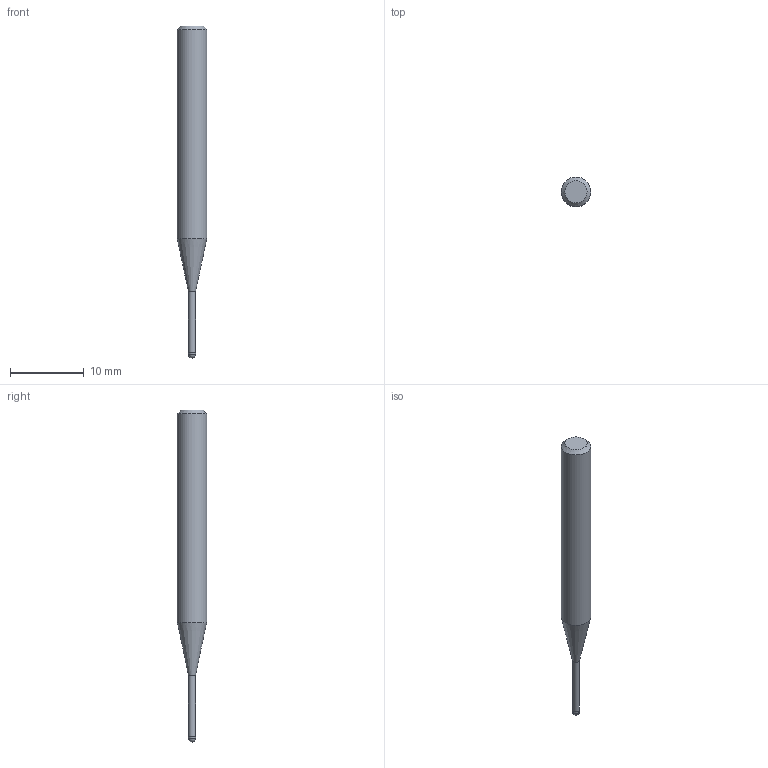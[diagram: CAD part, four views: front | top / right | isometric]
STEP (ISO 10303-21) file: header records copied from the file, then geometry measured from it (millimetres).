
FILE_DESCRIPTION((''),'2;1');
FILE_NAME('C:\Users\nsx150\AppData\Local\Temp\Mastercam 2021\ARV7HD45SN\TEMP.step','2023-06-13T16:35:40',(''),(''),'STEP Write','Mastercam 2021 ... CNC Software, Inc.','');
FILE_SCHEMA(('AUTOMOTIVE_DESIGN'));
Length unit declared in the file: millimetre
Products named in the file (1): None
Bounding box: 4 x 4 x 45 mm (x, y, z)
Volume: 406 mm3; surface area: 456.3 mm2
Topology: 2 solids, 2 shells, 9 faces, 14 edges, 8 vertices
Faces by surface type: plane 3, cylinder 3, cone 2, sphere 1
Full cylindrical faces by diameter (mm): 0.95 x1, 1 x1, 4 x1
Entity records: 211 total; most frequent: DIRECTION 36, CARTESIAN_POINT 25, AXIS2_PLACEMENT_3D 18, ORIENTED_EDGE 14, EDGE_LOOP 14, STYLED_ITEM 12, ADVANCED_FACE 9, FACE_BOUND 8
